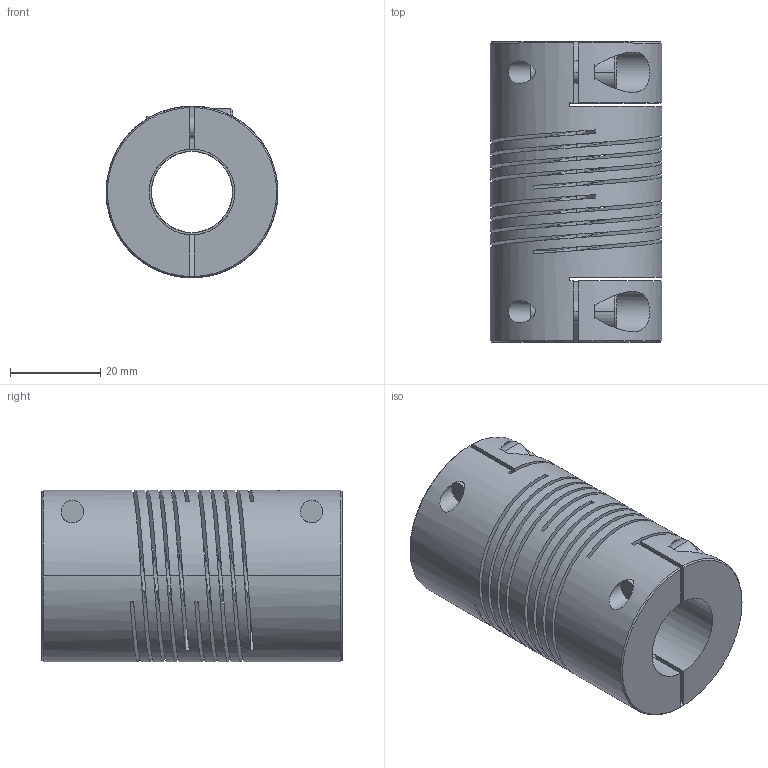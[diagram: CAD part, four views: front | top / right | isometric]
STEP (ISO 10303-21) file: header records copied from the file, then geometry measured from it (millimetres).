
FILE_DESCRIPTION((''),'2;1');
FILE_NAME('707_38','2006-12-06T',('Gary Melling'),(''),'PRO/ENGINEER BY PARAMETRIC TECHNOLOGY CORPORATION, 2006240','PRO/ENGINEER BY PARAMETRIC TECHNOLOGY CORPORATION, 2006240','');
FILE_SCHEMA(('CONFIG_CONTROL_DESIGN'));
Length unit declared in the file: millimetre
Products named in the file (1): 707_38
Bounding box: 38.1 x 66.7 x 38.1 mm (x, y, z)
Volume: 50169.6 mm3; surface area: 30938.2 mm2
Topology: 1 solids, 1 shells, 120 faces, 354 edges, 232 vertices
Faces by surface type: plane 56, cylinder 46, bspline 12, cone 6
Entity records: 6293 total; most frequent: CARTESIAN_POINT 3205, ORIENTED_EDGE 708, DIRECTION 528, EDGE_CURVE 354, VERTEX_POINT 232, VECTOR 188, LINE 188, AXIS2_PLACEMENT_3D 170
